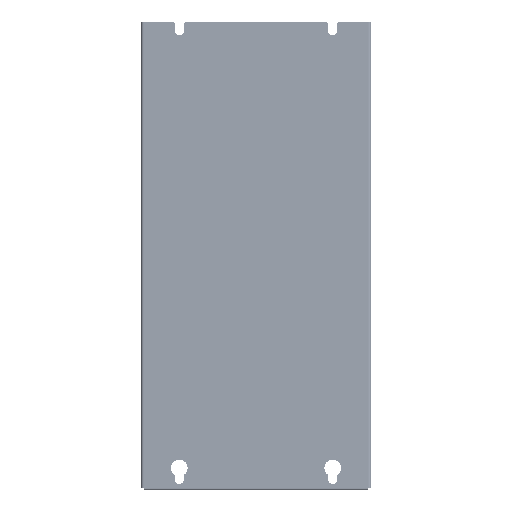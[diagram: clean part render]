
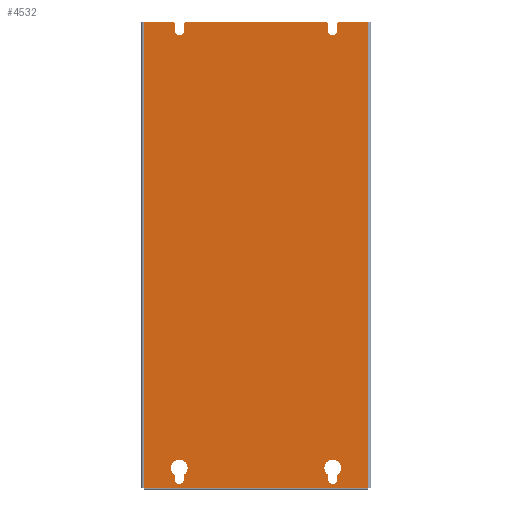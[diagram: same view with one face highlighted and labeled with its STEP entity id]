
A CAD part, front view. The second image highlights one B-rep face of the part: STEP entity #4532.
In plain terms, the highlighted planar face has unit normal (0, -1, 0).
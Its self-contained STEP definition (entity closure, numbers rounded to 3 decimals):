
#4532=ADVANCED_FACE('',(#71203,#71205,#71207),#71209,.T.);
#71203=FACE_BOUND('',#71204,.T.);
#71204=EDGE_LOOP('',(#168456,#168457,#168458,#168459,#168460,#168461,#168462,#168463,
#168464,#168465,#168466,#168467,#168468,#168469,#168470,#168471));
#71205=FACE_BOUND('',#71206,.T.);
#71206=EDGE_LOOP('',(#168472,#168473,#168474,#168475));
#71207=FACE_BOUND('',#71208,.T.);
#71208=EDGE_LOOP('',(#168476,#168477,#168478,#168479));
#71209=PLANE('',#71210);
#71210=AXIS2_PLACEMENT_3D('',#71211,#71212,#71213);
#71211=CARTESIAN_POINT('',(-90.,0.,-182.5));
#71212=DIRECTION('',(0.,-1.,0.));
#71213=DIRECTION('',(1.,0.,0.));
#168456=ORIENTED_EDGE('',*,*,#207424,.F.);
#168457=ORIENTED_EDGE('',*,*,#207425,.F.);
#168458=ORIENTED_EDGE('',*,*,#207426,.T.);
#168459=ORIENTED_EDGE('',*,*,#207257,.T.);
#168460=ORIENTED_EDGE('',*,*,#207427,.F.);
#168461=ORIENTED_EDGE('',*,*,#207428,.T.);
#168462=ORIENTED_EDGE('',*,*,#207429,.T.);
#168463=ORIENTED_EDGE('',*,*,#207430,.T.);
#168464=ORIENTED_EDGE('',*,*,#207431,.F.);
#168465=ORIENTED_EDGE('',*,*,#207432,.T.);
#168466=ORIENTED_EDGE('',*,*,#207433,.F.);
#168467=ORIENTED_EDGE('',*,*,#207434,.T.);
#168468=ORIENTED_EDGE('',*,*,#207435,.T.);
#168469=ORIENTED_EDGE('',*,*,#207436,.T.);
#168470=ORIENTED_EDGE('',*,*,#207437,.F.);
#168471=ORIENTED_EDGE('',*,*,#207438,.T.);
#168472=ORIENTED_EDGE('',*,*,#207439,.T.);
#168473=ORIENTED_EDGE('',*,*,#207440,.F.);
#168474=ORIENTED_EDGE('',*,*,#207441,.T.);
#168475=ORIENTED_EDGE('',*,*,#207423,.F.);
#168476=ORIENTED_EDGE('',*,*,#207442,.F.);
#168477=ORIENTED_EDGE('',*,*,#207443,.T.);
#168478=ORIENTED_EDGE('',*,*,#207444,.F.);
#168479=ORIENTED_EDGE('',*,*,#207445,.T.);
#207257=EDGE_CURVE('',#226647,#226644,#226648,.T.);
#207423=EDGE_CURVE('',#226962,#226960,#226964,.T.);
#207424=EDGE_CURVE('',#226965,#226966,#226967,.T.);
#207425=EDGE_CURVE('',#226968,#226965,#226969,.T.);
#207426=EDGE_CURVE('',#226968,#226647,#226970,.T.);
#207427=EDGE_CURVE('',#226971,#226644,#226972,.T.);
#207428=EDGE_CURVE('',#226971,#226973,#226974,.T.);
#207429=EDGE_CURVE('',#226973,#226975,#226976,.T.);
#207430=EDGE_CURVE('',#226975,#226977,#226978,.T.);
#207431=EDGE_CURVE('',#226979,#226977,#226980,.T.);
#207432=EDGE_CURVE('',#226979,#226981,#226982,.T.);
#207433=EDGE_CURVE('',#226983,#226981,#226984,.T.);
#207434=EDGE_CURVE('',#226983,#226985,#226986,.T.);
#207435=EDGE_CURVE('',#226985,#226987,#226988,.T.);
#207436=EDGE_CURVE('',#226987,#226989,#226990,.T.);
#207437=EDGE_CURVE('',#226991,#226989,#226992,.T.);
#207438=EDGE_CURVE('',#226991,#226966,#226993,.T.);
#207439=EDGE_CURVE('',#226962,#226994,#226995,.T.);
#207440=EDGE_CURVE('',#226996,#226994,#226997,.T.);
#207441=EDGE_CURVE('',#226996,#226960,#226998,.T.);
#207442=EDGE_CURVE('',#226999,#227000,#227001,.T.);
#207443=EDGE_CURVE('',#226999,#227002,#227003,.T.);
#207444=EDGE_CURVE('',#227004,#227002,#227005,.T.);
#207445=EDGE_CURVE('',#227004,#227000,#227006,.T.);
#226644=VERTEX_POINT('',#258634);
#226647=VERTEX_POINT('',#258642);
#226648=LINE('',#258643,#258644);
#226960=VERTEX_POINT('',#259294);
#226962=VERTEX_POINT('',#259298);
#226964=LINE('',#259302,#259303);
#226965=VERTEX_POINT('',#259305);
#226966=VERTEX_POINT('',#259306);
#226967=LINE('',#259307,#259308);
#226968=VERTEX_POINT('',#259310);
#226969=LINE('',#259311,#259312);
#226970=LINE('',#259314,#259315);
#226971=VERTEX_POINT('',#259317);
#226972=LINE('',#259318,#259319);
#226973=VERTEX_POINT('',#259321);
#226974=LINE('',#259322,#259323);
#226975=VERTEX_POINT('',#259325);
#226976=LINE('',#259326,#259327);
#226977=VERTEX_POINT('',#259329);
#226978=CIRCLE('',#259330,3.5);
#226979=VERTEX_POINT('',#259334);
#226980=LINE('',#259335,#259336);
#226981=VERTEX_POINT('',#259338);
#226982=LINE('',#259339,#259340);
#226983=VERTEX_POINT('',#259342);
#226984=LINE('',#259343,#259344);
#226985=VERTEX_POINT('',#259346);
#226986=LINE('',#259347,#259348);
#226987=VERTEX_POINT('',#259350);
#226988=LINE('',#259351,#259352);
#226989=VERTEX_POINT('',#259354);
#226990=CIRCLE('',#259355,3.5);
#226991=VERTEX_POINT('',#259359);
#226992=LINE('',#259360,#259361);
#226993=LINE('',#259363,#259364);
#226994=VERTEX_POINT('',#259366);
#226995=CIRCLE('',#259367,3.5);
#226996=VERTEX_POINT('',#259371);
#226997=LINE('',#259372,#259373);
#226998=CIRCLE('',#259375,6.5);
#226999=VERTEX_POINT('',#259379);
#227000=VERTEX_POINT('',#259380);
#227001=LINE('',#259381,#259382);
#227002=VERTEX_POINT('',#259384);
#227003=CIRCLE('',#259385,6.5);
#227004=VERTEX_POINT('',#259389);
#227005=LINE('',#259390,#259391);
#227006=CIRCLE('',#259393,3.5);
#258634=CARTESIAN_POINT('',(87.8,0.,182.5));
#258642=CARTESIAN_POINT('',(87.8,0.,-182.5));
#258643=CARTESIAN_POINT('',(87.8,0.,-182.5));
#258644=VECTOR('',#258645,1.);
#258645=DIRECTION('',(0.,0.,1.));
#259294=CARTESIAN_POINT('',(63.5,0.,-171.977));
#259298=CARTESIAN_POINT('',(63.5,0.,-175.5));
#259302=CARTESIAN_POINT('',(63.5,0.,-175.5));
#259303=VECTOR('',#259304,1.);
#259304=DIRECTION('',(0.,0.,1.));
#259305=CARTESIAN_POINT('',(-87.8,0.,182.5));
#259306=CARTESIAN_POINT('',(-64.5,0.,182.5));
#259307=CARTESIAN_POINT('',(-87.8,0.,182.5));
#259308=VECTOR('',#259309,1.);
#259309=DIRECTION('',(1.,0.,0.));
#259310=CARTESIAN_POINT('',(-87.8,0.,-182.5));
#259311=CARTESIAN_POINT('',(-87.8,0.,-182.5));
#259312=VECTOR('',#259313,1.);
#259313=DIRECTION('',(0.,0.,1.));
#259314=CARTESIAN_POINT('',(-87.8,0.,-182.5));
#259315=VECTOR('',#259316,1.);
#259316=DIRECTION('',(1.,0.,0.));
#259317=CARTESIAN_POINT('',(64.5,0.,182.5));
#259318=CARTESIAN_POINT('',(64.5,0.,182.5));
#259319=VECTOR('',#259320,1.);
#259320=DIRECTION('',(1.,0.,0.));
#259321=CARTESIAN_POINT('',(63.5,0.,181.5));
#259322=CARTESIAN_POINT('',(64.5,0.,182.5));
#259323=VECTOR('',#259324,1.);
#259324=DIRECTION('',(-0.707,0.,-0.707));
#259325=CARTESIAN_POINT('',(63.5,0.,175.5));
#259326=CARTESIAN_POINT('',(63.5,0.,181.5));
#259327=VECTOR('',#259328,1.);
#259328=DIRECTION('',(0.,0.,-1.));
#259329=CARTESIAN_POINT('',(56.5,0.,175.5));
#259330=AXIS2_PLACEMENT_3D('',#259331,#259332,#259333);
#259331=CARTESIAN_POINT('',(60.,0.,175.5));
#259332=DIRECTION('',(0.,1.,0.));
#259333=DIRECTION('',(1.,0.,0.));
#259334=CARTESIAN_POINT('',(56.5,0.,181.5));
#259335=CARTESIAN_POINT('',(56.5,0.,181.5));
#259336=VECTOR('',#259337,1.);
#259337=DIRECTION('',(0.,0.,-1.));
#259338=CARTESIAN_POINT('',(55.5,0.,182.5));
#259339=CARTESIAN_POINT('',(56.5,0.,181.5));
#259340=VECTOR('',#259341,1.);
#259341=DIRECTION('',(-0.707,0.,0.707));
#259342=CARTESIAN_POINT('',(-55.5,0.,182.5));
#259343=CARTESIAN_POINT('',(-55.5,0.,182.5));
#259344=VECTOR('',#259345,1.);
#259345=DIRECTION('',(1.,0.,0.));
#259346=CARTESIAN_POINT('',(-56.5,0.,181.5));
#259347=CARTESIAN_POINT('',(-55.5,0.,182.5));
#259348=VECTOR('',#259349,1.);
#259349=DIRECTION('',(-0.707,0.,-0.707));
#259350=CARTESIAN_POINT('',(-56.5,0.,175.5));
#259351=CARTESIAN_POINT('',(-56.5,0.,181.5));
#259352=VECTOR('',#259353,1.);
#259353=DIRECTION('',(0.,0.,-1.));
#259354=CARTESIAN_POINT('',(-63.5,0.,175.5));
#259355=AXIS2_PLACEMENT_3D('',#259356,#259357,#259358);
#259356=CARTESIAN_POINT('',(-60.,0.,175.5));
#259357=DIRECTION('',(0.,1.,0.));
#259358=DIRECTION('',(1.,0.,0.));
#259359=CARTESIAN_POINT('',(-63.5,0.,181.5));
#259360=CARTESIAN_POINT('',(-63.5,0.,181.5));
#259361=VECTOR('',#259362,1.);
#259362=DIRECTION('',(0.,0.,-1.));
#259363=CARTESIAN_POINT('',(-63.5,0.,181.5));
#259364=VECTOR('',#259365,1.);
#259365=DIRECTION('',(-0.707,0.,0.707));
#259366=CARTESIAN_POINT('',(56.5,0.,-175.5));
#259367=AXIS2_PLACEMENT_3D('',#259368,#259369,#259370);
#259368=CARTESIAN_POINT('',(60.,0.,-175.5));
#259369=DIRECTION('',(0.,1.,0.));
#259370=DIRECTION('',(1.,0.,0.));
#259371=CARTESIAN_POINT('',(56.5,0.,-171.977));
#259372=CARTESIAN_POINT('',(56.5,0.,-171.977));
#259373=VECTOR('',#259374,1.);
#259374=DIRECTION('',(0.,0.,-1.));
#259375=AXIS2_PLACEMENT_3D('',#259376,#259377,#259378);
#259376=CARTESIAN_POINT('',(60.,0.,-166.5));
#259377=DIRECTION('',(0.,1.,0.));
#259378=DIRECTION('',(-0.538,0.,-0.843));
#259379=CARTESIAN_POINT('',(-63.5,0.,-171.977));
#259380=CARTESIAN_POINT('',(-63.5,0.,-175.5));
#259381=CARTESIAN_POINT('',(-63.5,0.,-171.977));
#259382=VECTOR('',#259383,1.);
#259383=DIRECTION('',(0.,0.,-1.));
#259384=CARTESIAN_POINT('',(-56.5,0.,-171.977));
#259385=AXIS2_PLACEMENT_3D('',#259386,#259387,#259388);
#259386=CARTESIAN_POINT('',(-60.,0.,-166.5));
#259387=DIRECTION('',(0.,1.,0.));
#259388=DIRECTION('',(-0.538,0.,-0.843));
#259389=CARTESIAN_POINT('',(-56.5,0.,-175.5));
#259390=CARTESIAN_POINT('',(-56.5,0.,-175.5));
#259391=VECTOR('',#259392,1.);
#259392=DIRECTION('',(0.,0.,1.));
#259393=AXIS2_PLACEMENT_3D('',#259394,#259395,#259396);
#259394=CARTESIAN_POINT('',(-60.,0.,-175.5));
#259395=DIRECTION('',(0.,1.,0.));
#259396=DIRECTION('',(1.,0.,0.));
